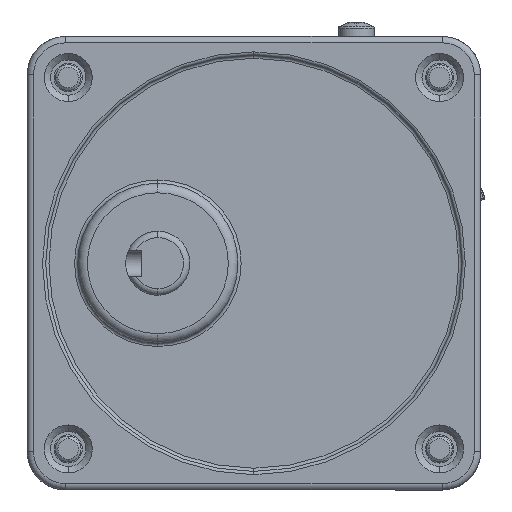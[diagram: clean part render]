
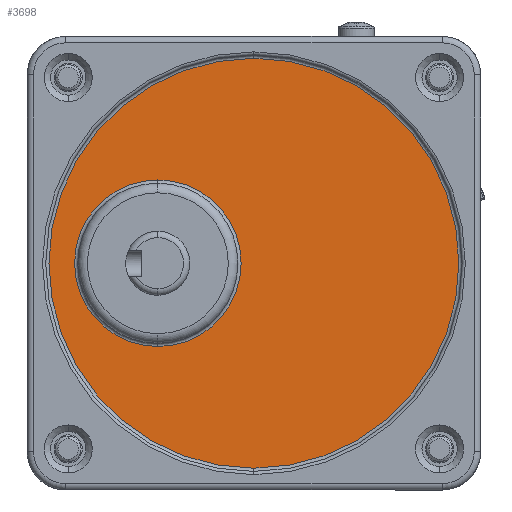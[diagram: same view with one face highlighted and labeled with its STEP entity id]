
A CAD part, front view. The second image highlights one B-rep face of the part: STEP entity #3698.
In plain terms, the highlighted planar face has unit normal (0, -1, 0) as drawn and (0, 0, 1) by its records, which use the part's own axes.
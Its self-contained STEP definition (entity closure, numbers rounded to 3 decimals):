
#1164 = VERTEX_POINT ( 'NONE', #14745 ) ;
#1252 = VERTEX_POINT ( 'NONE', #13870 ) ;
#1260 = EDGE_LOOP ( 'NONE', ( #22446, #13917 ) ) ;
#1545 = CARTESIAN_POINT ( 'NONE',  ( 0., 15., 41. ) ) ;
#2193 = AXIS2_PLACEMENT_3D ( 'NONE', #25876, #2486, #4169 ) ;
#2486 = DIRECTION ( 'NONE',  ( 0., 0., -1. ) ) ;
#2739 = DIRECTION ( 'NONE',  ( 0., 0., -1. ) ) ;
#3444 = VERTEX_POINT ( 'NONE', #21534 ) ;
#3698 = ADVANCED_FACE ( 'NONE', ( #7528, #16327 ), #20399, .F. ) ;
#4102 = ORIENTED_EDGE ( 'NONE', *, *, #24866, .F. ) ;
#4169 = DIRECTION ( 'NONE',  ( -1., 0., 0. ) ) ;
#4876 = CIRCLE ( 'NONE', #2193, 32. ) ;
#5428 = AXIS2_PLACEMENT_3D ( 'NONE', #1545, #8112, #14570 ) ;
#5451 = CIRCLE ( 'NONE', #5428, 13. ) ;
#5571 = DIRECTION ( 'NONE',  ( 0., 0., 1. ) ) ;
#5712 = DIRECTION ( 'NONE',  ( -1., 0., 0. ) ) ;
#7528 = FACE_OUTER_BOUND ( 'NONE', #1260, .T. ) ;
#7663 = DIRECTION ( 'NONE',  ( 0., -1., 0. ) ) ;
#8112 = DIRECTION ( 'NONE',  ( 0., 0., 1. ) ) ;
#13772 = EDGE_CURVE ( 'NONE', #1252, #14972, #18153, .T. ) ;
#13802 = DIRECTION ( 'NONE',  ( 1., 0., 0. ) ) ;
#13870 = CARTESIAN_POINT ( 'NONE',  ( 32., 0., 41. ) ) ;
#13917 = ORIENTED_EDGE ( 'NONE', *, *, #14797, .F. ) ;
#14570 = DIRECTION ( 'NONE',  ( 1., 0., 0. ) ) ;
#14745 = CARTESIAN_POINT ( 'NONE',  ( 13., 15., 41. ) ) ;
#14797 = EDGE_CURVE ( 'NONE', #14972, #1252, #4876, .T. ) ;
#14972 = VERTEX_POINT ( 'NONE', #24053 ) ;
#16048 = CARTESIAN_POINT ( 'NONE',  ( 0., 15., 41. ) ) ;
#16327 = FACE_BOUND ( 'NONE', #22914, .T. ) ;
#17132 = EDGE_CURVE ( 'NONE', #1164, #3444, #5451, .T. ) ;
#17452 = CARTESIAN_POINT ( 'NONE',  ( 0., 0., 41. ) ) ;
#18153 = CIRCLE ( 'NONE', #21744, 32. ) ;
#18705 = CARTESIAN_POINT ( 'NONE',  ( 32., 0., 41. ) ) ;
#20399 = PLANE ( 'NONE',  #21636 ) ;
#21534 = CARTESIAN_POINT ( 'NONE',  ( -13., 15., 41. ) ) ;
#21636 = AXIS2_PLACEMENT_3D ( 'NONE', #18705, #22506, #7663 ) ;
#21744 = AXIS2_PLACEMENT_3D ( 'NONE', #17452, #2739, #13802 ) ;
#22446 = ORIENTED_EDGE ( 'NONE', *, *, #13772, .F. ) ;
#22506 = DIRECTION ( 'NONE',  ( 0., 0., -1. ) ) ;
#22914 = EDGE_LOOP ( 'NONE', ( #4102, #24406 ) ) ;
#24053 = CARTESIAN_POINT ( 'NONE',  ( -32., 0., 41. ) ) ;
#24406 = ORIENTED_EDGE ( 'NONE', *, *, #17132, .F. ) ;
#24829 = CIRCLE ( 'NONE', #27529, 13. ) ;
#24866 = EDGE_CURVE ( 'NONE', #3444, #1164, #24829, .T. ) ;
#25876 = CARTESIAN_POINT ( 'NONE',  ( 0., 0., 41. ) ) ;
#27529 = AXIS2_PLACEMENT_3D ( 'NONE', #16048, #5571, #5712 ) ;
